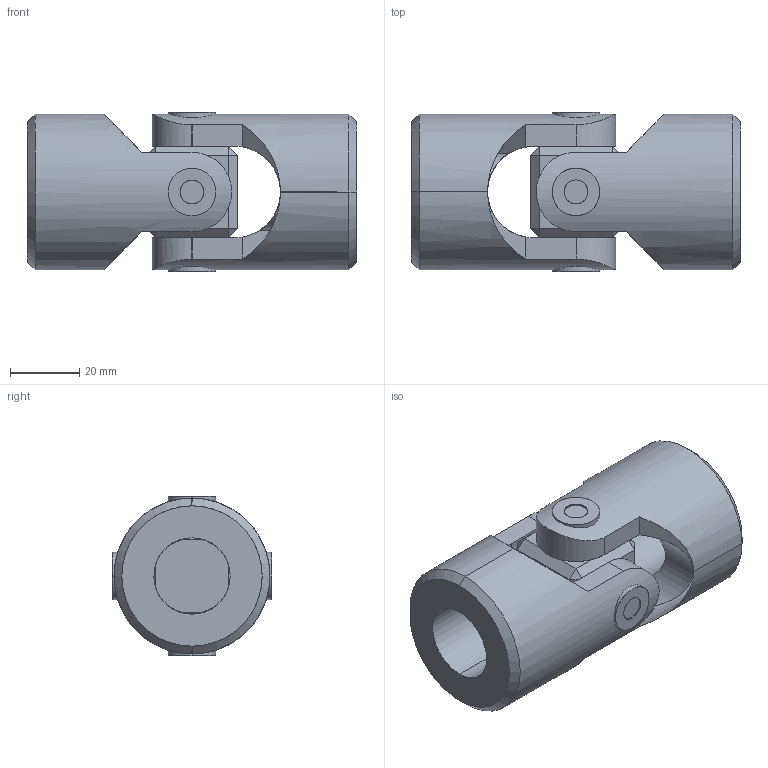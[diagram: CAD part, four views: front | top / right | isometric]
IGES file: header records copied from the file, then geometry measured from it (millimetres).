
Start section: SolidWorks IGES file using analytic representation for surfaces
Global section: file name: C:\Users\IanO\Desktop\R3690_v2\R3690_v2_20231020_IGES\R3690.022-RB.igs; native system: SolidWorks 2019; preprocessor: SolidWorks 2019; author: IanO; date: 231020.152304; units: millimetre
Bounding box: 95 x 45.9 x 45.9 mm (x, y, z)
Surface area: 31596.9 mm2 (no closed solid volume)
Topology: 0 solids, 0 shells, 104 faces, 2308 edges, 2308 vertices
Faces by surface type: bspline 56, revolution 48
